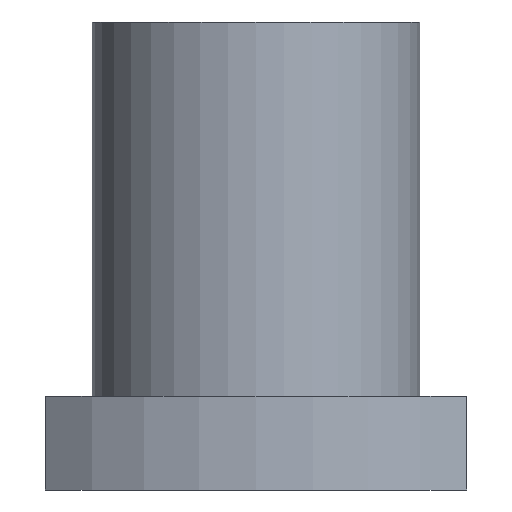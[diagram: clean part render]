
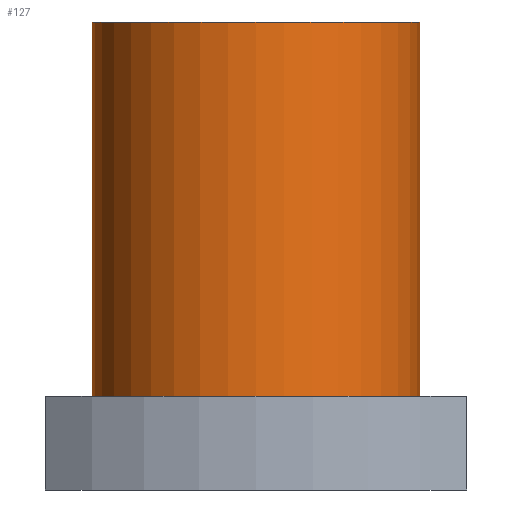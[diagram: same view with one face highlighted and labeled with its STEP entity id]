
A CAD part, front view. The second image highlights one B-rep face of the part: STEP entity #127.
In plain terms, the highlighted cylindrical face has radius 10.5 mm (diameter 21 mm), a partial arc.
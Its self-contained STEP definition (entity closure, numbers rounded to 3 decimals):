
#86=CARTESIAN_POINT('',(8.5,-10.856,0.0));
#87=DIRECTION('',(0.0,0.0,1.0));
#88=DIRECTION('',(-1.0,0.0,0.0));
#89=AXIS2_PLACEMENT_3D('',#86,#87,#88);
#90=CYLINDRICAL_SURFACE('',#89,10.5);
#91=CARTESIAN_POINT('',(-2.,-10.856,6.0));
#92=VERTEX_POINT('',#91);
#93=CARTESIAN_POINT('',(-2.,-10.856,30.0));
#94=VERTEX_POINT('',#93);
#95=CARTESIAN_POINT('',(-2.,-10.856,6.0));
#96=DIRECTION('',(0.0,0.0,1.0));
#97=VECTOR('',#96,24.0);
#98=LINE('',#95,#97);
#99=EDGE_CURVE('',#92,#94,#98,.T.);
#100=ORIENTED_EDGE('',*,*,#99,.F.);
#101=CARTESIAN_POINT('',(19.,-10.856,6.));
#102=VERTEX_POINT('',#101);
#103=CARTESIAN_POINT('',(8.5,-10.856,6.));
#104=DIRECTION('',(0.0,0.0,-1.0));
#105=DIRECTION('',(-1.0,0.0,0.0));
#106=AXIS2_PLACEMENT_3D('',#103,#104,#105);
#107=CIRCLE('',#106,10.5);
#108=EDGE_CURVE('',#102,#92,#107,.T.);
#109=ORIENTED_EDGE('',*,*,#108,.F.);
#110=CARTESIAN_POINT('',(19.,-10.856,30.0));
#111=VERTEX_POINT('',#110);
#112=CARTESIAN_POINT('',(19.,-10.856,30.0));
#113=DIRECTION('',(0.0,0.0,-1.0));
#114=VECTOR('',#113,24.0);
#115=LINE('',#112,#114);
#116=EDGE_CURVE('',#111,#102,#115,.T.);
#117=ORIENTED_EDGE('',*,*,#116,.F.);
#118=CARTESIAN_POINT('',(8.5,-10.856,30.0));
#119=DIRECTION('',(0.0,0.0,-1.0));
#120=DIRECTION('',(-1.0,0.0,0.0));
#121=AXIS2_PLACEMENT_3D('',#118,#119,#120);
#122=CIRCLE('',#121,10.5);
#123=EDGE_CURVE('',#111,#94,#122,.T.);
#124=ORIENTED_EDGE('',*,*,#123,.T.);
#125=EDGE_LOOP('',(#100,#109,#117,#124));
#126=FACE_OUTER_BOUND('',#125,.T.);
#127=ADVANCED_FACE('',(#126),#90,.T.);
